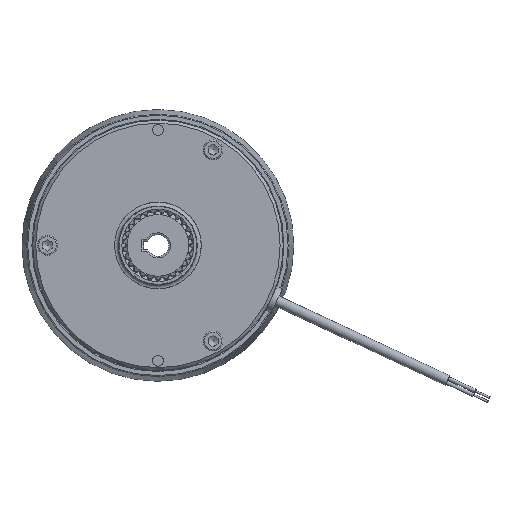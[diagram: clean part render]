
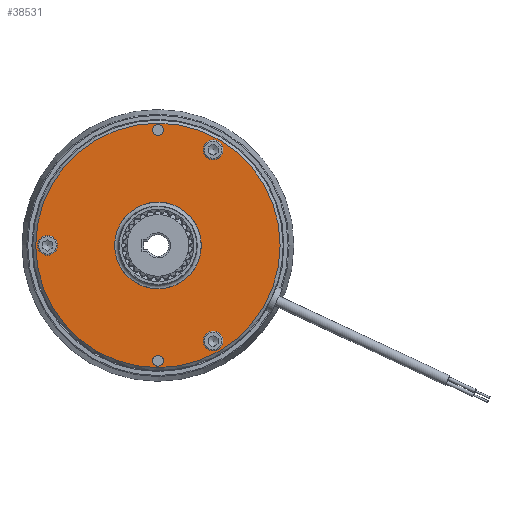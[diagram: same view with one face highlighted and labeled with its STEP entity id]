
A CAD part, left-side view. The second image highlights one B-rep face of the part: STEP entity #38531.
In plain terms, the highlighted planar face has unit normal (-1, 0, 0).
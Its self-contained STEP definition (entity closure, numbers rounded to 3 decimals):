
#2388=FACE_BOUND('',#6709,.T.);
#2389=FACE_BOUND('',#6710,.T.);
#2390=FACE_BOUND('',#6711,.T.);
#2391=FACE_BOUND('',#6712,.T.);
#2392=FACE_BOUND('',#6713,.T.);
#2393=FACE_BOUND('',#6714,.T.);
#2799=PLANE('',#42495);
#4718=FACE_OUTER_BOUND('',#6708,.T.);
#6708=EDGE_LOOP('',(#33818));
#6709=EDGE_LOOP('',(#33819,#33820));
#6710=EDGE_LOOP('',(#33821,#33822));
#6711=EDGE_LOOP('',(#33823,#33824));
#6712=EDGE_LOOP('',(#33825,#33826));
#6713=EDGE_LOOP('',(#33827,#33828));
#6714=EDGE_LOOP('',(#33829));
#12642=CIRCLE('',#42353,5.);
#12643=CIRCLE('',#42354,5.);
#12656=CIRCLE('',#42381,5.);
#12657=CIRCLE('',#42382,5.);
#12670=CIRCLE('',#42409,5.);
#12671=CIRCLE('',#42410,5.);
#12717=CIRCLE('',#42486,2.75);
#12718=CIRCLE('',#42487,2.75);
#12720=CIRCLE('',#42490,2.75);
#12721=CIRCLE('',#42491,2.75);
#12723=CIRCLE('',#42494,62.);
#12724=CIRCLE('',#42496,22.);
#16355=VERTEX_POINT('',#80621);
#16356=VERTEX_POINT('',#80622);
#16382=VERTEX_POINT('',#80713);
#16383=VERTEX_POINT('',#80714);
#16409=VERTEX_POINT('',#80805);
#16410=VERTEX_POINT('',#80806);
#16463=VERTEX_POINT('',#81128);
#16464=VERTEX_POINT('',#81129);
#16466=VERTEX_POINT('',#81136);
#16467=VERTEX_POINT('',#81137);
#16469=VERTEX_POINT('',#81144);
#16470=VERTEX_POINT('',#81148);
#22097=EDGE_CURVE('',#16355,#16356,#12642,.T.);
#22098=EDGE_CURVE('',#16356,#16355,#12643,.T.);
#22134=EDGE_CURVE('',#16382,#16383,#12656,.T.);
#22135=EDGE_CURVE('',#16383,#16382,#12657,.T.);
#22171=EDGE_CURVE('',#16409,#16410,#12670,.T.);
#22172=EDGE_CURVE('',#16410,#16409,#12671,.T.);
#22252=EDGE_CURVE('',#16463,#16464,#12717,.T.);
#22253=EDGE_CURVE('',#16464,#16463,#12718,.T.);
#22256=EDGE_CURVE('',#16466,#16467,#12720,.T.);
#22257=EDGE_CURVE('',#16467,#16466,#12721,.T.);
#22261=EDGE_CURVE('',#16469,#16469,#12723,.T.);
#22262=EDGE_CURVE('',#16470,#16470,#12724,.T.);
#33818=ORIENTED_EDGE('',*,*,#22261,.F.);
#33819=ORIENTED_EDGE('',*,*,#22097,.T.);
#33820=ORIENTED_EDGE('',*,*,#22098,.T.);
#33821=ORIENTED_EDGE('',*,*,#22134,.T.);
#33822=ORIENTED_EDGE('',*,*,#22135,.T.);
#33823=ORIENTED_EDGE('',*,*,#22171,.T.);
#33824=ORIENTED_EDGE('',*,*,#22172,.T.);
#33825=ORIENTED_EDGE('',*,*,#22252,.T.);
#33826=ORIENTED_EDGE('',*,*,#22253,.T.);
#33827=ORIENTED_EDGE('',*,*,#22256,.T.);
#33828=ORIENTED_EDGE('',*,*,#22257,.T.);
#33829=ORIENTED_EDGE('',*,*,#22262,.T.);
#38531=ADVANCED_FACE('',(#4718,#2388,#2389,#2390,#2391,#2392,#2393),#2799,
 .T.);
#42353=AXIS2_PLACEMENT_3D('',#80623,#51849,#51850);
#42354=AXIS2_PLACEMENT_3D('',#80624,#51851,#51852);
#42381=AXIS2_PLACEMENT_3D('',#80715,#51921,#51922);
#42382=AXIS2_PLACEMENT_3D('',#80716,#51923,#51924);
#42409=AXIS2_PLACEMENT_3D('',#80807,#51993,#51994);
#42410=AXIS2_PLACEMENT_3D('',#80808,#51995,#51996);
#42486=AXIS2_PLACEMENT_3D('',#81130,#52171,#52172);
#42487=AXIS2_PLACEMENT_3D('',#81131,#52173,#52174);
#42490=AXIS2_PLACEMENT_3D('',#81138,#52180,#52181);
#42491=AXIS2_PLACEMENT_3D('',#81139,#52182,#52183);
#42494=AXIS2_PLACEMENT_3D('',#81146,#52190,#52191);
#42495=AXIS2_PLACEMENT_3D('',#81147,#52192,#52193);
#42496=AXIS2_PLACEMENT_3D('',#81149,#52194,#52195);
#51849=DIRECTION('center_axis',(1.,0.,0.));
#51850=DIRECTION('ref_axis',(0.,-0.5,0.866));
#51851=DIRECTION('center_axis',(1.,0.,0.));
#51852=DIRECTION('ref_axis',(0.,-0.5,0.866));
#51921=DIRECTION('center_axis',(1.,0.,0.));
#51922=DIRECTION('ref_axis',(0.,-1.,0.));
#51923=DIRECTION('center_axis',(1.,0.,0.));
#51924=DIRECTION('ref_axis',(0.,-1.,0.));
#51993=DIRECTION('center_axis',(1.,0.,0.));
#51994=DIRECTION('ref_axis',(0.,-0.5,0.866));
#51995=DIRECTION('center_axis',(1.,0.,0.));
#51996=DIRECTION('ref_axis',(0.,-0.5,0.866));
#52171=DIRECTION('center_axis',(1.,0.,0.));
#52172=DIRECTION('ref_axis',(0.,0.,1.));
#52173=DIRECTION('center_axis',(1.,0.,0.));
#52174=DIRECTION('ref_axis',(0.,0.,1.));
#52180=DIRECTION('center_axis',(1.,0.,0.));
#52181=DIRECTION('ref_axis',(0.,0.,1.));
#52182=DIRECTION('center_axis',(1.,0.,0.));
#52183=DIRECTION('ref_axis',(0.,0.,1.));
#52190=DIRECTION('center_axis',(1.,0.,0.));
#52191=DIRECTION('ref_axis',(0.,-1.,0.));
#52192=DIRECTION('center_axis',(-1.,0.,0.));
#52193=DIRECTION('ref_axis',(0.,0.,1.));
#52194=DIRECTION('center_axis',(1.,0.,0.));
#52195=DIRECTION('ref_axis',(0.,0.,1.));
#80621=CARTESIAN_POINT('',(-23.,53.5,4.33));
#80622=CARTESIAN_POINT('',(-23.,58.5,-4.33));
#80623=CARTESIAN_POINT('Origin',(-23.,56.,0.));
#80624=CARTESIAN_POINT('Origin',(-23.,56.,0.));
#80713=CARTESIAN_POINT('',(-23.,-33.,-48.497));
#80714=CARTESIAN_POINT('',(-23.,-23.,-48.497));
#80715=CARTESIAN_POINT('Origin',(-23.,-28.,-48.497));
#80716=CARTESIAN_POINT('Origin',(-23.,-28.,-48.497));
#80805=CARTESIAN_POINT('',(-23.,-30.5,52.828));
#80806=CARTESIAN_POINT('',(-23.,-25.5,44.167));
#80807=CARTESIAN_POINT('Origin',(-23.,-28.,48.497));
#80808=CARTESIAN_POINT('Origin',(-23.,-28.,48.497));
#81128=CARTESIAN_POINT('',(-23.,0.,-55.75));
#81129=CARTESIAN_POINT('',(-23.,0.,-61.25));
#81130=CARTESIAN_POINT('Origin',(-23.,0.,-58.5));
#81131=CARTESIAN_POINT('Origin',(-23.,0.,-58.5));
#81136=CARTESIAN_POINT('',(-23.,0.,61.25));
#81137=CARTESIAN_POINT('',(-23.,0.,55.75));
#81138=CARTESIAN_POINT('Origin',(-23.,0.,58.5));
#81139=CARTESIAN_POINT('Origin',(-23.,0.,58.5));
#81144=CARTESIAN_POINT('',(-23.,62.,0.));
#81146=CARTESIAN_POINT('Origin',(-23.,0.,0.));
#81147=CARTESIAN_POINT('Origin',(-23.,31.75,0.));
#81148=CARTESIAN_POINT('',(-23.,0.,-22.));
#81149=CARTESIAN_POINT('Origin',(-23.,0.,0.));
